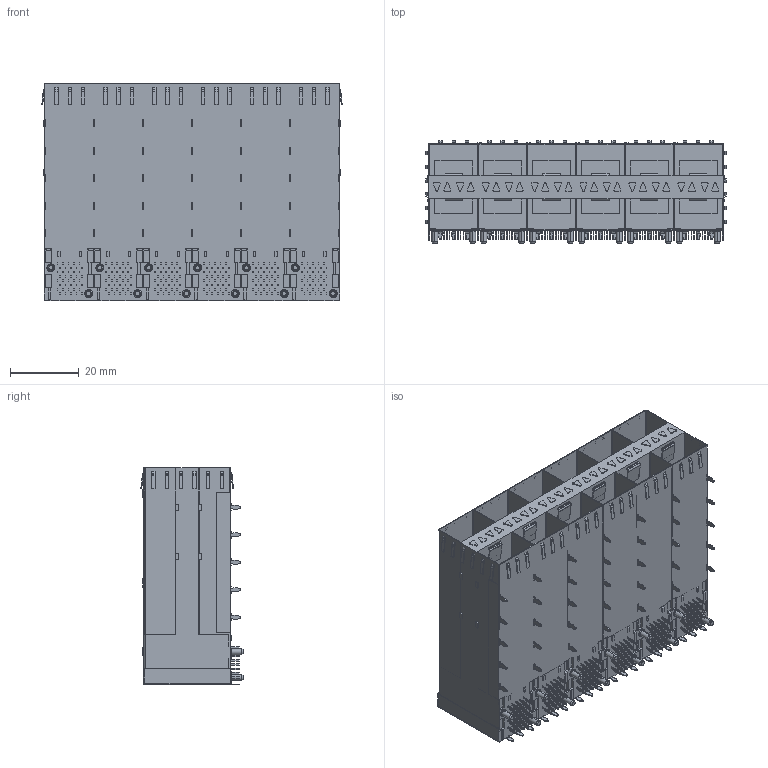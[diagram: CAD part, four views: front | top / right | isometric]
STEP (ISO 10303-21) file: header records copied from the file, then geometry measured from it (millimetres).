
FILE_DESCRIPTION (( 'STEP AP203' ), '1' );
FILE_NAME ('SFP 2X6.STEP', '2022-07-15T06:06:02', ( '桑三博客' ), ( 'Www.SangSan.Cn' ), 'SwSTEP 2.0', 'SolidWorks 2018', '' );
FILE_SCHEMA (( 'CONFIG_CONTROL_DESIGN' ));
Length unit declared in the file: millimetre
Products named in the file (1): SFP 2X6
Bounding box: 87.55 x 29.8 x 63.5 mm (x, y, z)
Volume: 69838.2 mm3; surface area: 48839 mm2
Topology: 1 solids, 1 shells, 3630 faces, 9614 edges, 6390 vertices
Faces by surface type: plane 2702, cylinder 878, cone 48, sphere 2
Entity records: 111901 total; most frequent: CARTESIAN_POINT 19633, ORIENTED_EDGE 19224, DIRECTION 18678, EDGE_CURVE 9612, LINE 7808, VECTOR 7808, VERTEX_POINT 6390, AXIS2_PLACEMENT_3D 5435
